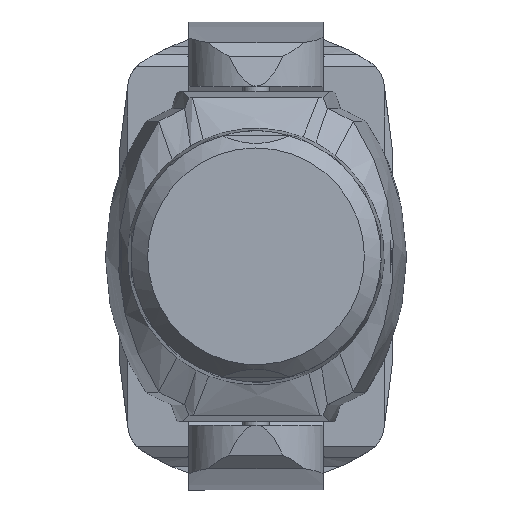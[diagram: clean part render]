
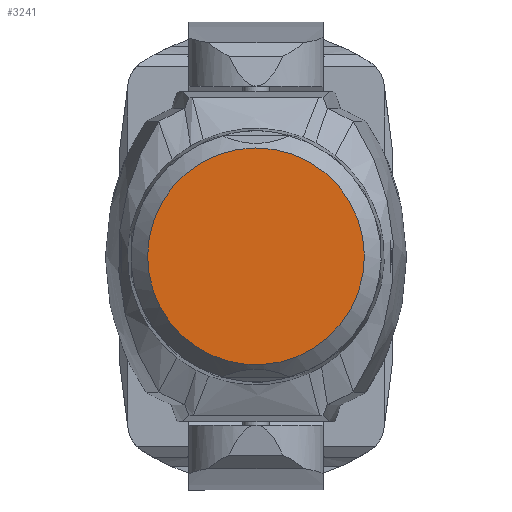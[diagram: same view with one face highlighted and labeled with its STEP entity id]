
A CAD part, top view. The second image highlights one B-rep face of the part: STEP entity #3241.
In plain terms, the highlighted planar face has unit normal (0, 0, 1).
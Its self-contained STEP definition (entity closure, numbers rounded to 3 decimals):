
#337=CIRCLE('',#3586,91.467);
#1017=ORIENTED_EDGE('',*,*,#1568,.T.);
#1568=EDGE_CURVE('',#1940,#1940,#337,.F.);
#1940=VERTEX_POINT('',#5899);
#2677=EDGE_LOOP('',(#1017));
#2916=FACE_BOUND('',#2677,.T.);
#3061=PLANE('',#3599);
#3241=ADVANCED_FACE('',(#2916),#3061,.T.);
#3586=AXIS2_PLACEMENT_3D('',#5898,#4227,#4228);
#3599=AXIS2_PLACEMENT_3D('',#6441,#4262,#4263);
#4227=DIRECTION('',(0.,0.,-1.));
#4228=DIRECTION('',(-1.,0.,0.));
#4262=DIRECTION('',(0.,0.,1.));
#4263=DIRECTION('',(1.,0.,0.));
#5898=CARTESIAN_POINT('',(0.,0.,628.156));
#5899=CARTESIAN_POINT('',(-91.467,0.,628.156));
#6441=CARTESIAN_POINT('',(650.538,-88.613,628.156));
